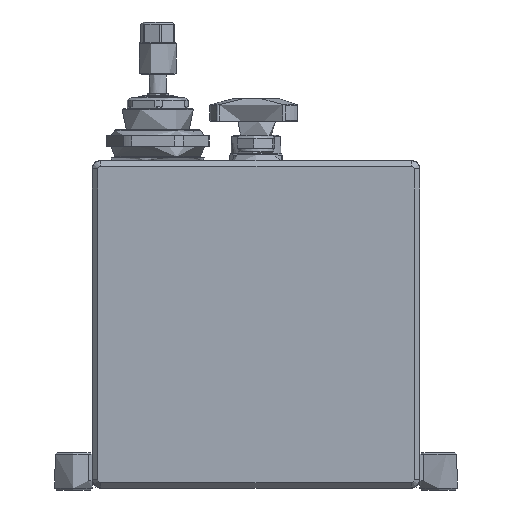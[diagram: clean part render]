
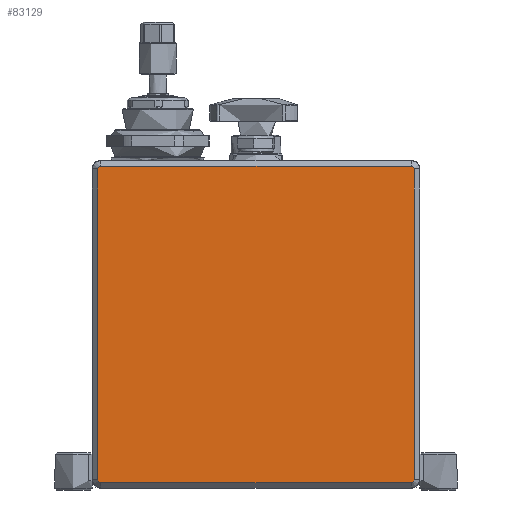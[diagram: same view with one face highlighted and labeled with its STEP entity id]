
A CAD part, left-side view. The second image highlights one B-rep face of the part: STEP entity #83129.
In plain terms, the highlighted planar face has unit normal (-1, 0, 0).
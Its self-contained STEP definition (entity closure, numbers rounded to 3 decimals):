
#1277=LINE('',#117263,#7289);
#1278=LINE('',#117265,#7290);
#1279=LINE('',#117266,#7291);
#1280=LINE('',#117267,#7292);
#7289=VECTOR('',#95242,1000.);
#7290=VECTOR('',#95243,1000.);
#7291=VECTOR('',#95244,1000.);
#7292=VECTOR('',#95245,1000.);
#14088=PLANE('',#87327);
#19836=ORIENTED_EDGE('',*,*,#35316,.T.);
#19837=ORIENTED_EDGE('',*,*,#35283,.T.);
#19838=ORIENTED_EDGE('',*,*,#35317,.T.);
#19839=ORIENTED_EDGE('',*,*,#35294,.T.);
#19840=ORIENTED_EDGE('',*,*,#35318,.T.);
#19841=ORIENTED_EDGE('',*,*,#35314,.T.);
#19842=ORIENTED_EDGE('',*,*,#35319,.T.);
#19843=ORIENTED_EDGE('',*,*,#35320,.T.);
#35283=EDGE_CURVE('',#43301,#43300,#48450,.T.);
#35294=EDGE_CURVE('',#43311,#43310,#48457,.T.);
#35314=EDGE_CURVE('',#43326,#43325,#48465,.T.);
#35316=EDGE_CURVE('',#43327,#43301,#1277,.T.);
#35317=EDGE_CURVE('',#43300,#43311,#1278,.T.);
#35318=EDGE_CURVE('',#43310,#43326,#1279,.T.);
#35319=EDGE_CURVE('',#43325,#43328,#1280,.T.);
#35320=EDGE_CURVE('',#43328,#43327,#48466,.T.);
#43300=VERTEX_POINT('',#117191);
#43301=VERTEX_POINT('',#117193);
#43310=VERTEX_POINT('',#117215);
#43311=VERTEX_POINT('',#117217);
#43325=VERTEX_POINT('',#117258);
#43326=VERTEX_POINT('',#117260);
#43327=VERTEX_POINT('',#117264);
#43328=VERTEX_POINT('',#117268);
#48450=CIRCLE('',#87300,1.499);
#48457=CIRCLE('',#87310,1.499);
#48465=CIRCLE('',#87326,1.499);
#48466=CIRCLE('',#87328,1.499);
#50883=EDGE_LOOP('',(#19836,#19837,#19838,#19839,#19840,#19841,#19842,#19843));
#55364=FACE_BOUND('',#50883,.T.);
#83129=ADVANCED_FACE('',(#55364),#14088,.F.);
#87300=AXIS2_PLACEMENT_3D('',#117192,#95169,#95170);
#87310=AXIS2_PLACEMENT_3D('',#117216,#95193,#95194);
#87326=AXIS2_PLACEMENT_3D('',#117259,#95237,#95238);
#87327=AXIS2_PLACEMENT_3D('',#117262,#95240,#95241);
#87328=AXIS2_PLACEMENT_3D('',#117269,#95246,#95247);
#95169=DIRECTION('',(-1.,0.,0.));
#95170=DIRECTION('',(0.,1.,0.));
#95193=DIRECTION('',(-1.,0.,0.));
#95194=DIRECTION('',(0.,0.,-1.));
#95237=DIRECTION('',(-1.,0.,0.));
#95238=DIRECTION('',(0.,-1.,0.));
#95240=DIRECTION('',(1.,0.,0.));
#95241=DIRECTION('',(0.,-1.,0.));
#95242=DIRECTION('',(0.,0.,-1.));
#95243=DIRECTION('',(0.,-1.,0.));
#95244=DIRECTION('',(0.,0.,1.));
#95245=DIRECTION('',(0.,1.,0.));
#95246=DIRECTION('',(-1.,0.,0.));
#95247=DIRECTION('',(0.,0.,1.));
#117191=CARTESIAN_POINT('',(-62.872,30.428,-165.895));
#117192=CARTESIAN_POINT('',(-62.872,30.428,-164.397));
#117193=CARTESIAN_POINT('',(-62.872,31.926,-164.397));
#117215=CARTESIAN_POINT('',(-62.872,-136.905,-164.397));
#117216=CARTESIAN_POINT('',(-62.872,-135.406,-164.397));
#117217=CARTESIAN_POINT('',(-62.872,-135.406,-165.895));
#117258=CARTESIAN_POINT('',(-62.872,-135.406,2.936));
#117259=CARTESIAN_POINT('',(-62.872,-135.406,1.437));
#117260=CARTESIAN_POINT('',(-62.872,-136.905,1.437));
#117262=CARTESIAN_POINT('',(-62.872,-136.905,-165.895));
#117263=CARTESIAN_POINT('',(-62.872,31.926,1.437));
#117264=CARTESIAN_POINT('',(-62.872,31.926,1.437));
#117265=CARTESIAN_POINT('',(-62.872,30.428,-165.895));
#117266=CARTESIAN_POINT('',(-62.872,-136.905,-164.397));
#117267=CARTESIAN_POINT('',(-62.872,-135.406,2.936));
#117268=CARTESIAN_POINT('',(-62.872,30.428,2.936));
#117269=CARTESIAN_POINT('',(-62.872,30.428,1.437));
